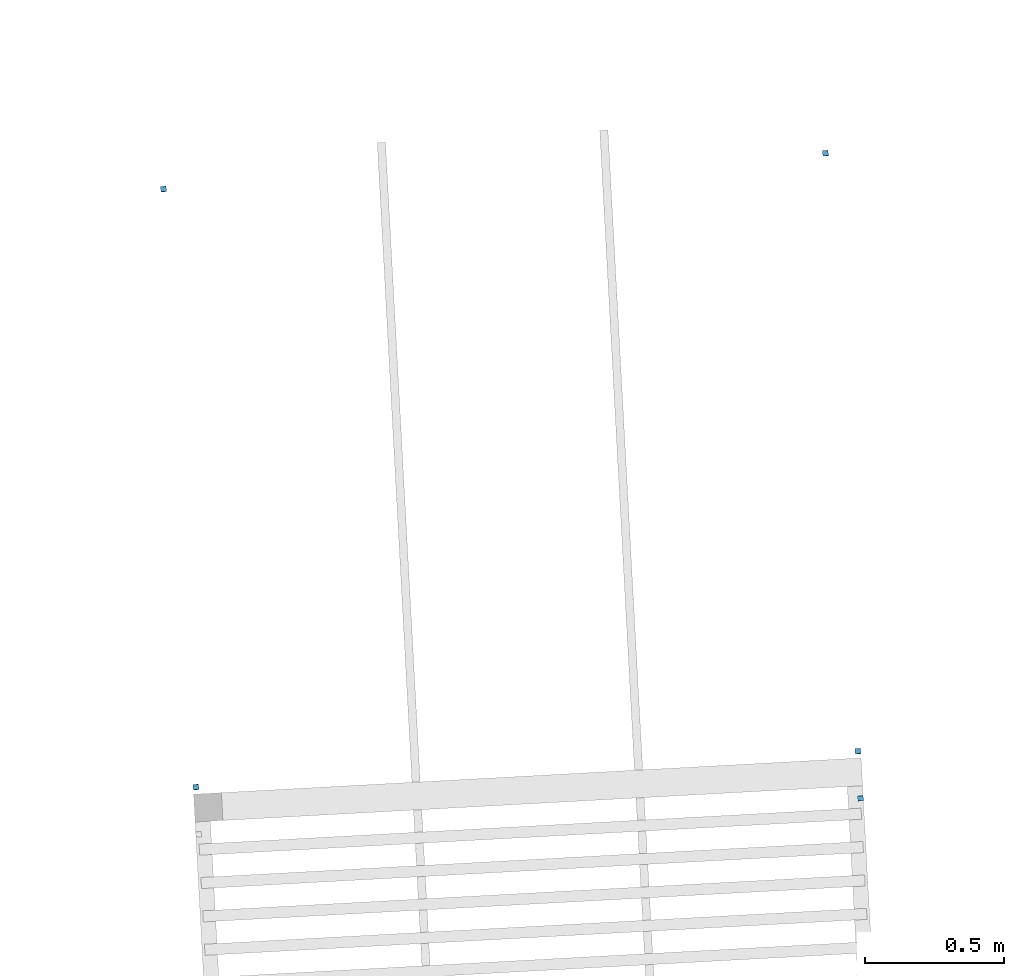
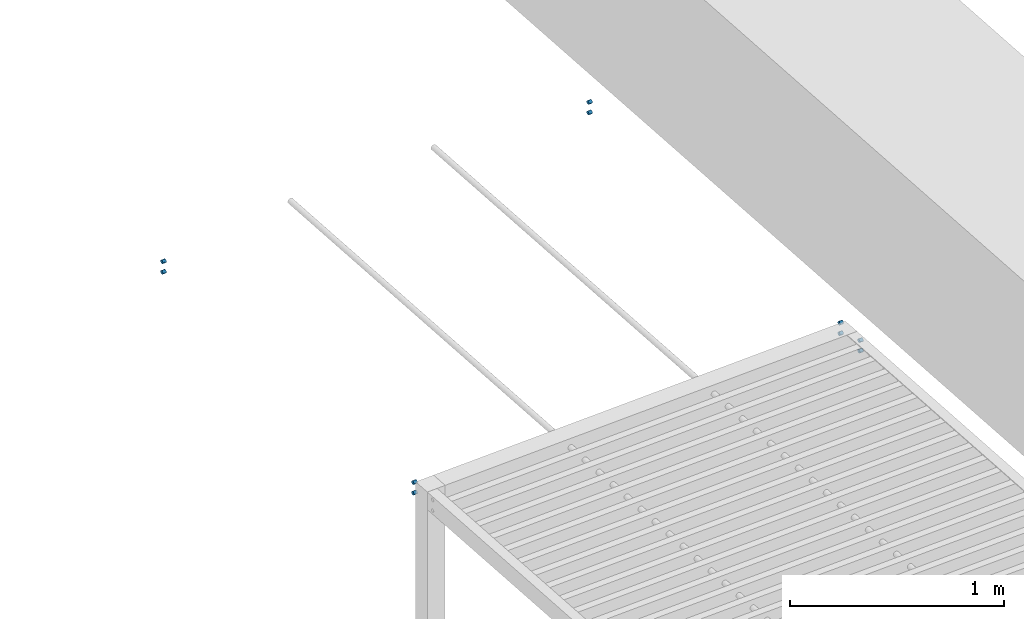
# One storey, part 4 of 438: 10 beams.
"""IFC2X3 building model written with IfcOpenShell, lengths in millimetres."""

from ifc_helpers import new_model, entity, si_unit, converted_unit, derived_unit, direction, frame, origin, origin_2d_with_axis, place, context, subcontext, project, spatial, circle, extrude, material, type_object, element, save


model = new_model("IFC2X3")

# Units and contexts
model_context = context("Model", 3, precision=0.01, world=origin(), true_north=direction((6.123031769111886e-17, 1.0)))
body_context = subcontext(model_context, "Body", "Model", "MODEL_VIEW")
ifc_project = project(units=[si_unit("LENGTHUNIT", "METRE", prefix="MILLI"), si_unit("AREAUNIT", "SQUARE_METRE"), si_unit("VOLUMEUNIT", "CUBIC_METRE"), converted_unit("PLANEANGLEUNIT", "DEGREE", entity("IfcRatioMeasure", 0.017453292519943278), si_unit("PLANEANGLEUNIT", "RADIAN"), dimensions=[0, 0, 0, 0, 0, 0, 0]), si_unit("MASSUNIT", "GRAM", prefix="KILO"), derived_unit("MASSDENSITYUNIT", [(si_unit("MASSUNIT", "GRAM", prefix="KILO"), 1), (si_unit("LENGTHUNIT", "METRE"), -3)]), derived_unit("MOMENTOFINERTIAUNIT", [(si_unit("LENGTHUNIT", "METRE"), 4)]), si_unit("TIMEUNIT", "SECOND"), si_unit("FREQUENCYUNIT", "HERTZ"), si_unit("THERMODYNAMICTEMPERATUREUNIT", "DEGREE_CELSIUS"), derived_unit("THERMALTRANSMITTANCEUNIT", [(si_unit("MASSUNIT", "GRAM", prefix="KILO"), 1), (si_unit("THERMODYNAMICTEMPERATUREUNIT", "KELVIN"), -1), (si_unit("TIMEUNIT", "SECOND"), -3)]), derived_unit("THERMALCONDUCTANCEUNIT", [(si_unit("MASSUNIT", "GRAM", prefix="KILO"), 1), (si_unit("LENGTHUNIT", "METRE"), 1), (si_unit("THERMODYNAMICTEMPERATUREUNIT", "KELVIN"), -1), (si_unit("TIMEUNIT", "SECOND"), -3)]), derived_unit("VOLUMETRICFLOWRATEUNIT", [(si_unit("LENGTHUNIT", "METRE"), 3), (si_unit("TIMEUNIT", "SECOND"), -1)]), derived_unit("MASSFLOWRATEUNIT", [(si_unit("MASSUNIT", "GRAM", prefix="KILO"), 1), (si_unit("TIMEUNIT", "SECOND"), -1)]), derived_unit("ROTATIONALFREQUENCYUNIT", [(si_unit("TIMEUNIT", "SECOND"), -1)]), si_unit("ELECTRICCURRENTUNIT", "AMPERE"), si_unit("ELECTRICVOLTAGEUNIT", "VOLT"), si_unit("POWERUNIT", "WATT"), converted_unit("FORCEUNIT", "KIP", entity("IfcRatioMeasure", 2.088543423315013e-05), si_unit("FORCEUNIT", "NEWTON"), dimensions=[1, 1, -2, 0, 0, 0, 0]), si_unit("ILLUMINANCEUNIT", "LUX"), si_unit("LUMINOUSFLUXUNIT", "LUMEN"), si_unit("LUMINOUSINTENSITYUNIT", "CANDELA"), derived_unit("USERDEFINED", [(si_unit("MASSUNIT", "GRAM", prefix="KILO"), -1), (si_unit("LENGTHUNIT", "METRE"), -2), (si_unit("TIMEUNIT", "SECOND"), 3), (si_unit("LUMINOUSFLUXUNIT", "LUMEN"), 1)]), derived_unit("USERDEFINED", [(si_unit("MASSUNIT", "GRAM", prefix="KILO"), 1), (si_unit("LENGTHUNIT", "METRE"), 3), (si_unit("TIMEUNIT", "SECOND"), -3), (si_unit("ELECTRICCURRENTUNIT", "AMPERE"), -2)]), derived_unit("USERDEFINED", [(si_unit("LENGTHUNIT", "METRE"), 2), (si_unit("TIMEUNIT", "SECOND"), -2)]), derived_unit("SOUNDPOWERUNIT", [(si_unit("MASSUNIT", "GRAM", prefix="KILO"), 1), (si_unit("LENGTHUNIT", "METRE"), 2), (si_unit("TIMEUNIT", "SECOND"), -3)]), derived_unit("SOUNDPRESSUREUNIT", [(si_unit("MASSUNIT", "GRAM", prefix="KILO"), 1), (si_unit("LENGTHUNIT", "METRE"), -1), (si_unit("TIMEUNIT", "SECOND"), -2)]), derived_unit("LINEARVELOCITYUNIT", [(si_unit("LENGTHUNIT", "METRE"), 1), (si_unit("TIMEUNIT", "SECOND"), -1)]), si_unit("PRESSUREUNIT", "PASCAL"), derived_unit("USERDEFINED", [(si_unit("LENGTHUNIT", "METRE"), -2), (si_unit("MASSUNIT", "GRAM", prefix="KILO"), 1), (si_unit("TIMEUNIT", "SECOND"), -2)]), derived_unit("LINEARFORCEUNIT", [(si_unit("MASSUNIT", "GRAM", prefix="KILO"), 1), (si_unit("LENGTHUNIT", "METRE"), 1), (si_unit("TIMEUNIT", "SECOND"), -2), (si_unit("LENGTHUNIT", "METRE"), -1)]), derived_unit("PLANARFORCEUNIT", [(si_unit("MASSUNIT", "GRAM", prefix="KILO"), 1), (si_unit("LENGTHUNIT", "METRE"), 1), (si_unit("TIMEUNIT", "SECOND"), -2), (si_unit("LENGTHUNIT", "METRE"), -2)]), derived_unit("SPECIFICHEATCAPACITYUNIT", [(si_unit("LENGTHUNIT", "METRE"), 2), (si_unit("TIMEUNIT", "SECOND"), -2), (si_unit("THERMODYNAMICTEMPERATUREUNIT", "KELVIN"), -1)]), derived_unit("VAPORPERMEABILITYUNIT", [(si_unit("TIMEUNIT", "SECOND"), 1), (si_unit("LENGTHUNIT", "METRE"), -1)]), derived_unit("DYNAMICVISCOSITYUNIT", [(si_unit("MASSUNIT", "GRAM", prefix="KILO"), 1), (si_unit("LENGTHUNIT", "METRE"), -1), (si_unit("TIMEUNIT", "SECOND"), -1)]), derived_unit("THERMALEXPANSIONCOEFFICIENTUNIT", [(si_unit("THERMODYNAMICTEMPERATUREUNIT", "KELVIN"), -1)])], contexts=[model_context])

# Site, building, storey
site_placement = place(None, frame((0.0, 0.0, 0.0), z_axis=(0.0, 0.0, 1.0), x_axis=(0.8191520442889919, 0.5735764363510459, 0.0)))
site = spatial("IfcSite", under=ifc_project, at=site_placement, Name="Default", CompositionType="ELEMENT")
building_placement = place(site_placement, origin())
building = spatial("IfcBuilding", under=site, at=building_placement, CompositionType="ELEMENT")
storey_placement = place(building_placement, origin())
storey = spatial("IfcBuildingStorey", under=building, at=storey_placement, Name="PLAN", CompositionType="ELEMENT", Elevation=0.0)

# Beams
ifc_material = material(Name="Paint-02.3")
beam_type = type_object("IfcBeamType", Name="Beam-124 291688:Beam-124 291688", PredefinedType="NOTDEFINED")
beam_1_placement = place(storey_placement, origin())
element("IfcBeam", 1, at=beam_1_placement, inside=storey, type_object=beam_type, material=ifc_material, Name="Beam-124", ObjectType="Beam-124 291688:Beam-124 291688", context=body_context, shape_type="SweptSolid", body=[
    extrude(circle(Radius=10.0, at=origin_2d_with_axis()), frame((-16906.663917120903, 90408.98762465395, 320.0), z_axis=(0.8490404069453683, -0.5283279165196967, 0.0), x_axis=(0.0, 0.0, 1.0)), (0.0, 0.0, 1.0), 19.99999999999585),
])
beam_2_placement = place(storey_placement, origin())
element("IfcBeam", 2, at=beam_2_placement, inside=storey, type_object=beam_type, material=ifc_material, Name="Beam-124", ObjectType="Beam-124 291688:Beam-124 291688", context=body_context, shape_type="SweptSolid", body=[
    extrude(circle(Radius=10.0, at=origin_2d_with_axis()), frame((-16906.663917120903, 90408.98762465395, 380.0), z_axis=(0.8490404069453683, -0.5283279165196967, 0.0), x_axis=(0.0, 0.0, 1.0)), (0.0, 0.0, 1.0), 19.99999999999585),
])
beam_3_placement = place(storey_placement, origin())
element("IfcBeam", 3, at=beam_3_placement, inside=storey, type_object=beam_type, material=ifc_material, Name="Beam-124", ObjectType="Beam-124 291688:Beam-124 291688", context=body_context, shape_type="SweptSolid", body=[
    extrude(circle(Radius=10.0, at=origin_2d_with_axis()), frame((-16816.848171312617, 90553.3244938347, 380.0), z_axis=(0.8490404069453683, -0.5283279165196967, 0.0), x_axis=(0.0, 0.0, 1.0)), (0.0, 0.0, 1.0), 19.99999999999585),
])
beam_4_placement = place(storey_placement, origin())
element("IfcBeam", 4, at=beam_4_placement, inside=storey, type_object=beam_type, material=ifc_material, Name="Beam-124", ObjectType="Beam-124 291688:Beam-124 291688", context=body_context, shape_type="SweptSolid", body=[
    extrude(circle(Radius=10.0, at=origin_2d_with_axis()), frame((-15680.943150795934, 92378.76136876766, 320.0), z_axis=(0.8490404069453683, -0.5283279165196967, 0.0), x_axis=(0.0, 0.0, 1.0)), (0.0, 0.0, 1.0), 19.99999999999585),
])
beam_5_placement = place(storey_placement, origin())
element("IfcBeam", 5, at=beam_5_placement, inside=storey, type_object=beam_type, material=ifc_material, Name="Beam-124", ObjectType="Beam-124 291688:Beam-124 291688", context=body_context, shape_type="SweptSolid", body=[
    extrude(circle(Radius=10.0, at=origin_2d_with_axis()), frame((-15680.943150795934, 92378.76136876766, 380.0), z_axis=(0.8490404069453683, -0.5283279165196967, 0.0), x_axis=(0.0, 0.0, 1.0)), (0.0, 0.0, 1.0), 19.99999999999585),
])
beam_6_placement = place(storey_placement, origin())
element("IfcBeam", 6, at=beam_6_placement, inside=storey, type_object=beam_type, material=ifc_material, Name="Beam-124", ObjectType="Beam-124 291688:Beam-124 291688", context=body_context, shape_type="SweptSolid", body=[
    extrude(circle(Radius=10.0, at=origin_2d_with_axis()), frame((-18837.56433984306, 91810.74493515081, 380.0), z_axis=(0.8490404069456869, -0.5283279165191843, 0.0), x_axis=(0.0, 0.0, 1.0)), (0.0, 0.0, 1.0), 19.999999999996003),
])
beam_7_placement = place(storey_placement, origin())
element("IfcBeam", 7, at=beam_7_placement, inside=storey, type_object=beam_type, material=ifc_material, Name="Beam-124", ObjectType="Beam-124 291688:Beam-124 291688", context=body_context, shape_type="SweptSolid", body=[
    extrude(circle(Radius=10.0, at=origin_2d_with_axis()), frame((-17701.65931932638, 93636.1818100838, 380.0), z_axis=(0.8490404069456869, -0.5283279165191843, 0.0), x_axis=(0.0, 0.0, 1.0)), (0.0, 0.0, 1.0), 19.999999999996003),
])
beam_8_placement = place(storey_placement, origin())
element("IfcBeam", 8, at=beam_8_placement, inside=storey, type_object=beam_type, material=ifc_material, Name="Beam-124", ObjectType="Beam-124 291688:Beam-124 291688", context=body_context, shape_type="SweptSolid", body=[
    extrude(circle(Radius=10.0, at=origin_2d_with_axis()), frame((-18837.56433984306, 91810.74493515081, 320.0), z_axis=(0.8490404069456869, -0.5283279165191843, 0.0), x_axis=(0.0, 0.0, 1.0)), (0.0, 0.0, 1.0), 19.999999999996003),
])
beam_9_placement = place(storey_placement, origin())
element("IfcBeam", 9, at=beam_9_placement, inside=storey, type_object=beam_type, material=ifc_material, Name="Beam-124", ObjectType="Beam-124 291688:Beam-124 291688", context=body_context, shape_type="SweptSolid", body=[
    extrude(circle(Radius=10.0, at=origin_2d_with_axis()), frame((-16816.848171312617, 90553.3244938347, 320.0), z_axis=(0.8490404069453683, -0.5283279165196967, 0.0), x_axis=(0.0, 0.0, 1.0)), (0.0, 0.0, 1.0), 19.99999999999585),
])
beam_10_placement = place(storey_placement, origin())
element("IfcBeam", 10, at=beam_10_placement, inside=storey, type_object=beam_type, material=ifc_material, Name="Beam-124", ObjectType="Beam-124 291688:Beam-124 291688", context=body_context, shape_type="SweptSolid", body=[
    extrude(circle(Radius=10.0, at=origin_2d_with_axis()), frame((-17701.65931932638, 93636.1818100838, 320.0), z_axis=(0.8490404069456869, -0.5283279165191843, 0.0), x_axis=(0.0, 0.0, 1.0)), (0.0, 0.0, 1.0), 19.999999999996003),
])

save(model, "model.ifc")
